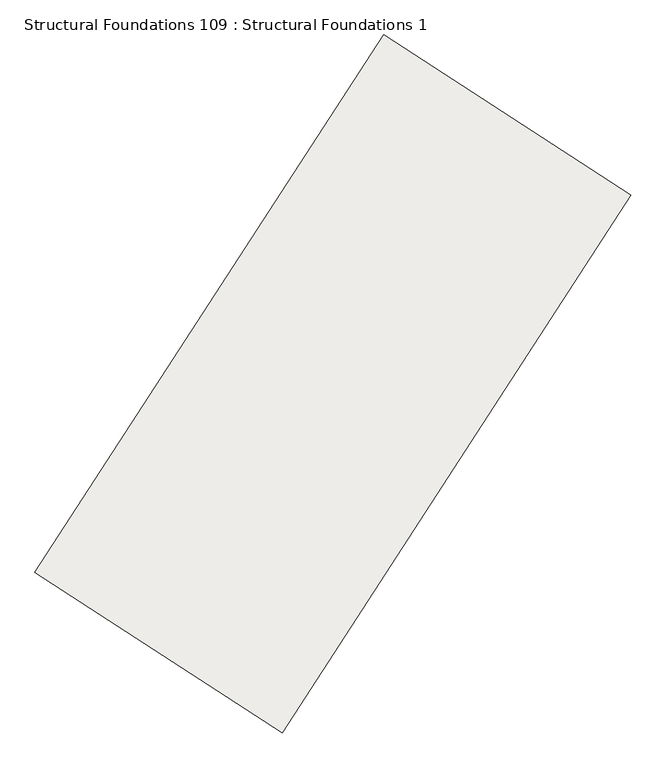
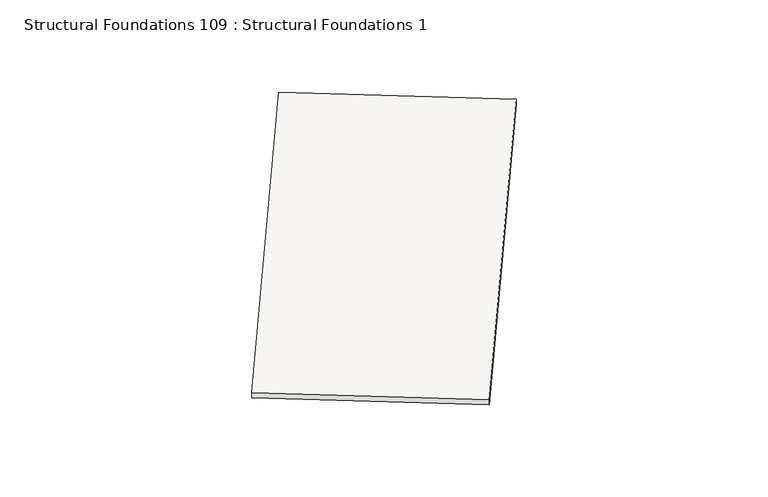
"""IFC4 building model written with IfcOpenShell, lengths in millimetres: slab geometry, Structural Foundations 109 : Structural Foundations 1."""

from ifc_helpers import new_model, si_unit, origin, place, context, project, spatial, faceted_brep, source, transform, mapped, element, save


def structural_foundations_109_structural_foundations_1_34914284(model_context):
    return source(origin(), model_context, "Body", "Brep", [
        faceted_brep([(-353884.1659813, -505631.1785463, 633270.0), (-353884.1659813, -505631.1785463, 633170.0), (-350527.8473209, -507807.2127946, 633170.0), (-350527.8473209, -507807.2127946, 633270.0), (-349151.291492, -498331.1854611, 633360.0), (-345794.9949555, -500507.2053656, 633360.0), (-345794.9949555, -500507.2053656, 633260.0), (-349151.291492, -498331.1854611, 633260.0)], [[[0, 1, 2, 3]], [[4, 5, 6, 7]], [[5, 4, 0, 3]], [[4, 7, 1, 0]], [[7, 6, 2, 1]], [[6, 5, 3, 2]]]),
    ])


if __name__ == "__main__":
    model = new_model("IFC4")
    model_context = context("Model", 3, world=origin())
    ifc_project = project(units=[si_unit("LENGTHUNIT", "METRE", prefix="MILLI")], contexts=[model_context])
    site = spatial("IfcSite", under=ifc_project)
    building = spatial("IfcBuilding", under=site)
    placement = place(None, origin())
    structural_foundations_109_structural_foundations_1_shape = structural_foundations_109_structural_foundations_1_34914284(model_context)
    element("IfcSlab", 1, ObjectType="Structural Foundations 109 : Structural Foundations 1", at=placement, inside=building, context=model_context, shape_type="MappedRepresentation", body=[
        mapped(structural_foundations_109_structural_foundations_1_shape, transform((0.0, 0.0, 0.0), x_axis=(1.0, 0.0, 0.0), y_axis=(0.0, 1.0, 0.0), z_axis=(0.0, 0.0, 1.0))),
    ])
    save(model, "model.ifc")
